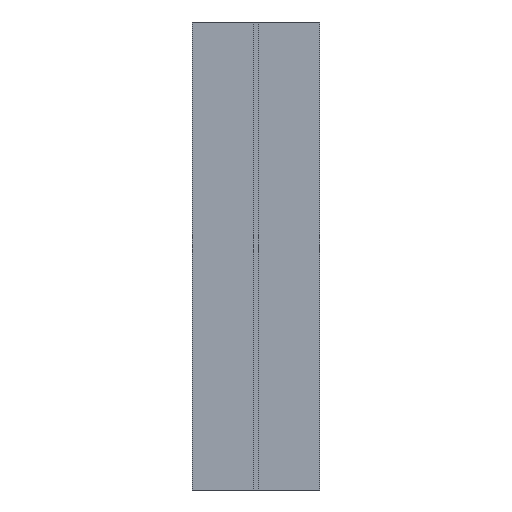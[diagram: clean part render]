
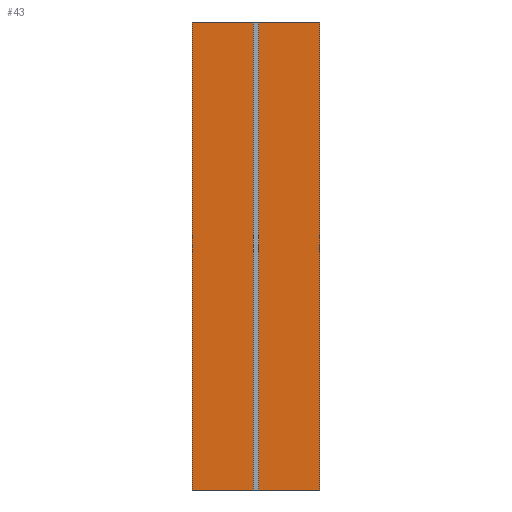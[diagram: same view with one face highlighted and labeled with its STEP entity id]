
A CAD part, left-side view. The second image highlights one B-rep face of the part: STEP entity #43.
In plain terms, the highlighted planar face has unit normal (-1, 0, 0).
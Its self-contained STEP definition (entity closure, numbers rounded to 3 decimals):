
#43 = ADVANCED_FACE('',(#44),#58,.F.);
#44 = FACE_BOUND('',#45,.F.);
#45 = EDGE_LOOP('',(#46,#81,#109,#137));
#46 = ORIENTED_EDGE('',*,*,#47,.F.);
#47 = EDGE_CURVE('',#48,#50,#52,.T.);
#48 = VERTEX_POINT('',#49);
#49 = CARTESIAN_POINT('',(-0.113,-0.05,0.));
#50 = VERTEX_POINT('',#51);
#51 = CARTESIAN_POINT('',(-0.113,-0.05,0.366));
#52 = SURFACE_CURVE('',#53,(#57,#69),.PCURVE_S1.);
#53 = LINE('',#54,#55);
#54 = CARTESIAN_POINT('',(-0.113,-0.05,0.));
#55 = VECTOR('',#56,1.);
#56 = DIRECTION('',(0.,0.,1.));
#57 = PCURVE('',#58,#63);
#58 = PLANE('',#59);
#59 = AXIS2_PLACEMENT_3D('',#60,#61,#62);
#60 = CARTESIAN_POINT('',(-0.113,-0.05,0.));
#61 = DIRECTION('',(1.,0.,0.));
#62 = DIRECTION('',(0.,0.,1.));
#63 = DEFINITIONAL_REPRESENTATION('',(#64),#68);
#64 = LINE('',#65,#66);
#65 = CARTESIAN_POINT('',(0.,0.));
#66 = VECTOR('',#67,1.);
#67 = DIRECTION('',(1.,0.));
#68 = ( GEOMETRIC_REPRESENTATION_CONTEXT(2) 
PARAMETRIC_REPRESENTATION_CONTEXT() REPRESENTATION_CONTEXT('2D SPACE',''
  ) );
#69 = PCURVE('',#70,#75);
#70 = PLANE('',#71);
#71 = AXIS2_PLACEMENT_3D('',#72,#73,#74);
#72 = CARTESIAN_POINT('',(-0.113,-0.05,0.));
#73 = DIRECTION('',(0.,1.,0.));
#74 = DIRECTION('',(0.,0.,1.));
#75 = DEFINITIONAL_REPRESENTATION('',(#76),#80);
#76 = LINE('',#77,#78);
#77 = CARTESIAN_POINT('',(0.,0.));
#78 = VECTOR('',#79,1.);
#79 = DIRECTION('',(1.,0.));
#80 = ( GEOMETRIC_REPRESENTATION_CONTEXT(2) 
PARAMETRIC_REPRESENTATION_CONTEXT() REPRESENTATION_CONTEXT('2D SPACE',''
  ) );
#81 = ORIENTED_EDGE('',*,*,#82,.T.);
#82 = EDGE_CURVE('',#48,#83,#85,.T.);
#83 = VERTEX_POINT('',#84);
#84 = CARTESIAN_POINT('',(-0.113,0.05,0.));
#85 = SURFACE_CURVE('',#86,(#90,#97),.PCURVE_S1.);
#86 = LINE('',#87,#88);
#87 = CARTESIAN_POINT('',(-0.113,-0.05,0.));
#88 = VECTOR('',#89,1.);
#89 = DIRECTION('',(0.,1.,0.));
#90 = PCURVE('',#58,#91);
#91 = DEFINITIONAL_REPRESENTATION('',(#92),#96);
#92 = LINE('',#93,#94);
#93 = CARTESIAN_POINT('',(0.,0.));
#94 = VECTOR('',#95,1.);
#95 = DIRECTION('',(0.,-1.));
#96 = ( GEOMETRIC_REPRESENTATION_CONTEXT(2) 
PARAMETRIC_REPRESENTATION_CONTEXT() REPRESENTATION_CONTEXT('2D SPACE',''
  ) );
#97 = PCURVE('',#98,#103);
#98 = PLANE('',#99);
#99 = AXIS2_PLACEMENT_3D('',#100,#101,#102);
#100 = CARTESIAN_POINT('',(-0.113,-0.05,0.));
#101 = DIRECTION('',(0.,0.,1.));
#102 = DIRECTION('',(1.,0.,0.));
#103 = DEFINITIONAL_REPRESENTATION('',(#104),#108);
#104 = LINE('',#105,#106);
#105 = CARTESIAN_POINT('',(0.,0.));
#106 = VECTOR('',#107,1.);
#107 = DIRECTION('',(0.,1.));
#108 = ( GEOMETRIC_REPRESENTATION_CONTEXT(2) 
PARAMETRIC_REPRESENTATION_CONTEXT() REPRESENTATION_CONTEXT('2D SPACE',''
  ) );
#109 = ORIENTED_EDGE('',*,*,#110,.T.);
#110 = EDGE_CURVE('',#83,#111,#113,.T.);
#111 = VERTEX_POINT('',#112);
#112 = CARTESIAN_POINT('',(-0.113,0.05,0.366));
#113 = SURFACE_CURVE('',#114,(#118,#125),.PCURVE_S1.);
#114 = LINE('',#115,#116);
#115 = CARTESIAN_POINT('',(-0.113,0.05,0.));
#116 = VECTOR('',#117,1.);
#117 = DIRECTION('',(0.,0.,1.));
#118 = PCURVE('',#58,#119);
#119 = DEFINITIONAL_REPRESENTATION('',(#120),#124);
#120 = LINE('',#121,#122);
#121 = CARTESIAN_POINT('',(0.,-0.1));
#122 = VECTOR('',#123,1.);
#123 = DIRECTION('',(1.,0.));
#124 = ( GEOMETRIC_REPRESENTATION_CONTEXT(2) 
PARAMETRIC_REPRESENTATION_CONTEXT() REPRESENTATION_CONTEXT('2D SPACE',''
  ) );
#125 = PCURVE('',#126,#131);
#126 = PLANE('',#127);
#127 = AXIS2_PLACEMENT_3D('',#128,#129,#130);
#128 = CARTESIAN_POINT('',(-0.113,0.05,0.));
#129 = DIRECTION('',(0.,1.,0.));
#130 = DIRECTION('',(0.,0.,1.));
#131 = DEFINITIONAL_REPRESENTATION('',(#132),#136);
#132 = LINE('',#133,#134);
#133 = CARTESIAN_POINT('',(0.,0.));
#134 = VECTOR('',#135,1.);
#135 = DIRECTION('',(1.,0.));
#136 = ( GEOMETRIC_REPRESENTATION_CONTEXT(2) 
PARAMETRIC_REPRESENTATION_CONTEXT() REPRESENTATION_CONTEXT('2D SPACE',''
  ) );
#137 = ORIENTED_EDGE('',*,*,#138,.F.);
#138 = EDGE_CURVE('',#50,#111,#139,.T.);
#139 = SURFACE_CURVE('',#140,(#144,#151),.PCURVE_S1.);
#140 = LINE('',#141,#142);
#141 = CARTESIAN_POINT('',(-0.113,-0.05,0.366));
#142 = VECTOR('',#143,1.);
#143 = DIRECTION('',(0.,1.,0.));
#144 = PCURVE('',#58,#145);
#145 = DEFINITIONAL_REPRESENTATION('',(#146),#150);
#146 = LINE('',#147,#148);
#147 = CARTESIAN_POINT('',(0.366,0.));
#148 = VECTOR('',#149,1.);
#149 = DIRECTION('',(0.,-1.));
#150 = ( GEOMETRIC_REPRESENTATION_CONTEXT(2) 
PARAMETRIC_REPRESENTATION_CONTEXT() REPRESENTATION_CONTEXT('2D SPACE',''
  ) );
#151 = PCURVE('',#152,#157);
#152 = PLANE('',#153);
#153 = AXIS2_PLACEMENT_3D('',#154,#155,#156);
#154 = CARTESIAN_POINT('',(-0.113,-0.05,0.366));
#155 = DIRECTION('',(0.,0.,1.));
#156 = DIRECTION('',(1.,0.,0.));
#157 = DEFINITIONAL_REPRESENTATION('',(#158),#162);
#158 = LINE('',#159,#160);
#159 = CARTESIAN_POINT('',(0.,0.));
#160 = VECTOR('',#161,1.);
#161 = DIRECTION('',(0.,1.));
#162 = ( GEOMETRIC_REPRESENTATION_CONTEXT(2) 
PARAMETRIC_REPRESENTATION_CONTEXT() REPRESENTATION_CONTEXT('2D SPACE',''
  ) );
